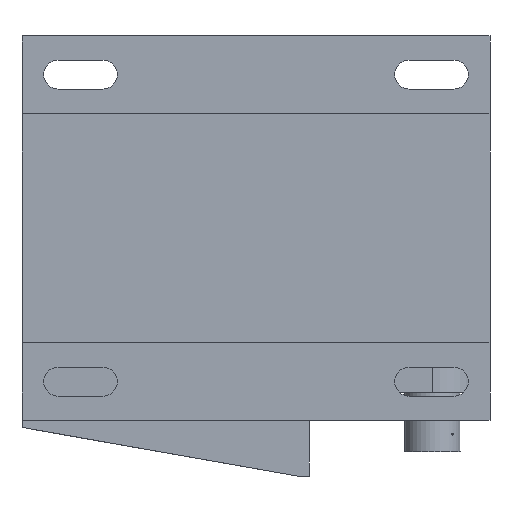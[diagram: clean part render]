
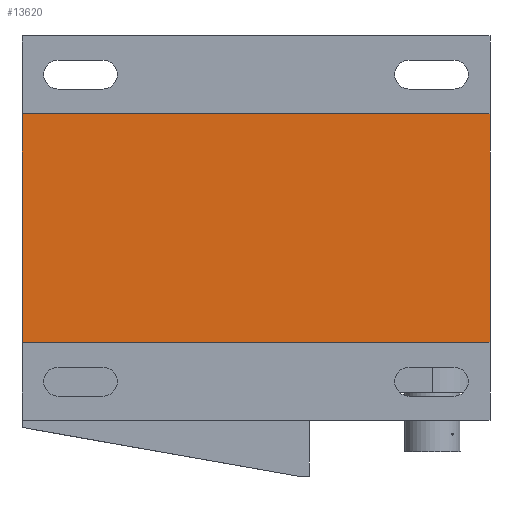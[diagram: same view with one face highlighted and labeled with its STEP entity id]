
A CAD part, front view. The second image highlights one B-rep face of the part: STEP entity #13620.
In plain terms, the highlighted planar face has unit normal (0, -1, 0).
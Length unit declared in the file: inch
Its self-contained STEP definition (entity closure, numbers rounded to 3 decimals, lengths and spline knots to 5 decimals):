
#1007=PLANE('',#14447);
#1599=FACE_OUTER_BOUND('',#2396,.T.);
#2396=EDGE_LOOP('',(#9841,#9842,#9843,#9844));
#3443=LINE('',#19435,#4914);
#3447=LINE('',#19444,#4918);
#3449=LINE('',#19447,#4920);
#3450=LINE('',#19448,#4921);
#4914=VECTOR('',#15670,4.2);
#4918=VECTOR('',#15676,4.2);
#4920=VECTOR('',#15680,2.05);
#4921=VECTOR('',#15681,2.05);
#6699=VERTEX_POINT('',#19432);
#6700=VERTEX_POINT('',#19434);
#6703=VERTEX_POINT('',#19441);
#6704=VERTEX_POINT('',#19443);
#7972=EDGE_CURVE('',#6699,#6700,#3443,.T.);
#7976=EDGE_CURVE('',#6703,#6704,#3447,.T.);
#7978=EDGE_CURVE('',#6700,#6703,#3449,.T.);
#7979=EDGE_CURVE('',#6704,#6699,#3450,.T.);
#9841=ORIENTED_EDGE('',*,*,#7976,.F.);
#9842=ORIENTED_EDGE('',*,*,#7978,.F.);
#9843=ORIENTED_EDGE('',*,*,#7972,.F.);
#9844=ORIENTED_EDGE('',*,*,#7979,.F.);
#13620=ADVANCED_FACE('',(#1599),#1007,.F.);
#14447=AXIS2_PLACEMENT_3D('',#19446,#15678,#15679);
#15670=DIRECTION('',(1.,0.,0.));
#15676=DIRECTION('',(-1.,0.,0.));
#15678=DIRECTION('center_axis',(0.,1.,0.));
#15679=DIRECTION('ref_axis',(0.,0.,1.));
#15680=DIRECTION('',(0.,0.,-1.));
#15681=DIRECTION('',(0.,0.,1.));
#19432=CARTESIAN_POINT('',(-2.475,-1.5725,1.25));
#19434=CARTESIAN_POINT('',(1.725,-1.5725,1.25));
#19435=CARTESIAN_POINT('',(-2.475,-1.5725,1.25));
#19441=CARTESIAN_POINT('',(1.725,-1.5725,-0.8));
#19443=CARTESIAN_POINT('',(-2.475,-1.5725,-0.8));
#19444=CARTESIAN_POINT('',(1.725,-1.5725,-0.8));
#19446=CARTESIAN_POINT('Origin',(-0.375,-1.5725,0.225));
#19447=CARTESIAN_POINT('',(1.725,-1.5725,0.7375));
#19448=CARTESIAN_POINT('',(-2.475,-1.5725,0.22872));
